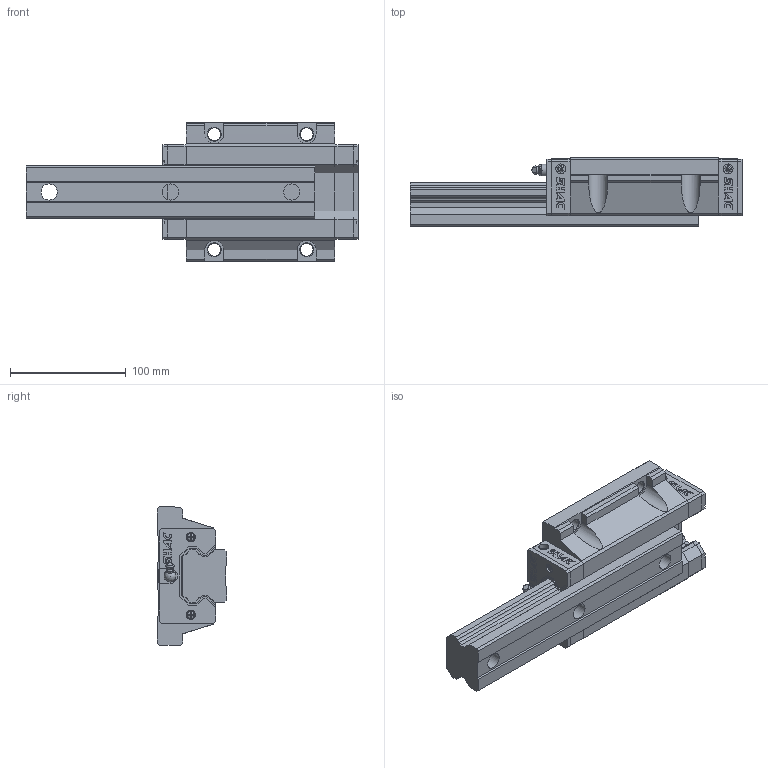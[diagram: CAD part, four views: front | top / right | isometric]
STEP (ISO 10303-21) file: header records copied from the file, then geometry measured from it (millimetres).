
FILE_DESCRIPTION( ( 'STEP AP214' ), '1' );
FILE_NAME( 'F:/品牌/SHAC 台湾鼎翰传动科技有限公司/3D滑块/GHW45HB1R250Z0C-20_20_1_1_.stp', '2025-04-21T22:48:28', ( 'License CC BY-ND 4.0' ), ( 'CADENAS' ), ' ', 'PARTsolutions', ' ' );
FILE_SCHEMA( ( 'AUTOMOTIVE_DESIGN { 1 0 10303 214 1 1 1 1 }' ) );
Length unit declared in the file: millimetre
Products named in the file (8): GHW45HB1R250Z0C-20/20(1_1); _GHR45R250C+RC-20/20(1)_RAIL; _GHW45HB_SLIDER; _GHW45HB_C; _GHW45HB_P; _GH45_SCREW; _GH45_BOLT; _GH45-_G
Assembly tree (12 placements, depth 2):
  GHW45HB1R250Z0C-20/20(1_1)
    _GHR45R250C+RC-20/20(1)_RAIL
    _GHW45HB_SLIDER
    _GHW45HB_C  x2
    _GHW45HB_P  x2
    _GH45_SCREW  x4
    _GH45_BOLT
    _GH45-_G
Bounding box: 287.3 x 60 x 120 mm (x, y, z)
Volume: 975736.8 mm3; surface area: 149162.3 mm2
Topology: 12 solids, 12 shells, 808 faces, 2140 edges, 1407 vertices
Faces by surface type: plane 658, cylinder 109, cone 26, torus 9, sphere 5, bspline 1
Full cylindrical faces by diameter (mm): 0.818 x4, 4.3 x4, 4.5 x1, 6.67 x4, 7.5 x2, 8 x4, 8.5 x4, 10 x2, 10.3 x2, 11 x4, 14 x3, 20 x3
Entity records: 19413 total; most frequent: CARTESIAN_POINT 2848, ORIENTED_EDGE 2548, DIRECTION 2468, EDGE_CURVE 1274, LINE 1050, VECTOR 1050, VERTEX_POINT 861, AXIS2_PLACEMENT_3D 709
